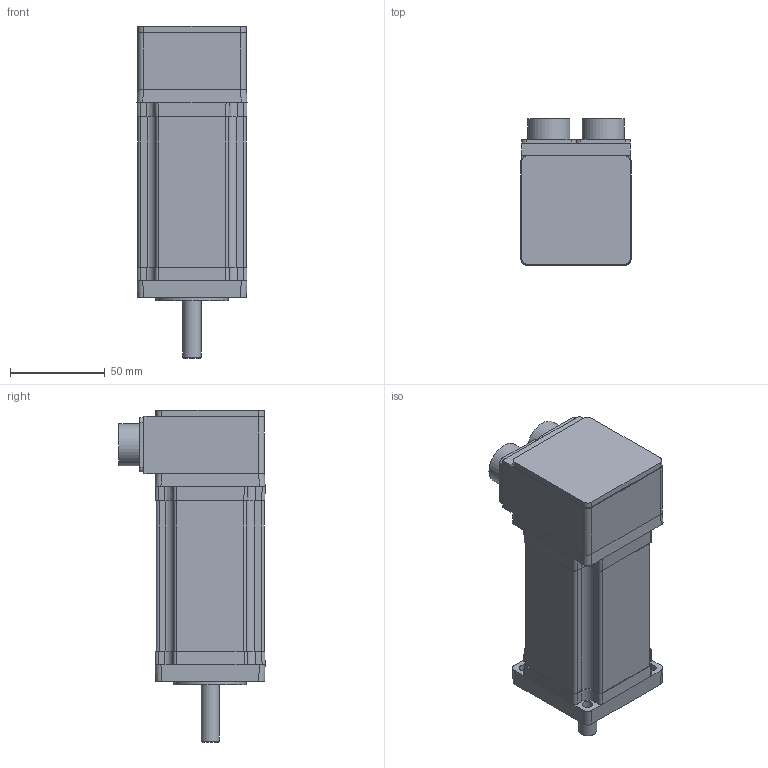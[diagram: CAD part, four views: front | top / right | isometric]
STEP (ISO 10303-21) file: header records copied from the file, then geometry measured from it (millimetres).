
FILE_DESCRIPTION((''),'2;1');
FILE_NAME('C:\CAD_work\Dummy_Modeling_Project_02-12-05\3D MODELS\BE233_MS_TQ.stp','2005-12-20T15:34:21',('jevans'),(''),'Autodesk Inventor 10','Autodesk Inventor 10','');
FILE_SCHEMA(('AUTOMOTIVE_DESIGN { 1 0 10303 214 1 1 1 1 }'));
Length unit declared in the file: inch
Products named in the file (1): BE23_MS_TQ
Bounding box: 57.95 x 77.05 x 174.91 mm (x, y, z)
Volume: 452710.3 mm3; surface area: 51594 mm2
Topology: 3 solids, 3 shells, 306 faces, 756 edges, 480 vertices
Faces by surface type: plane 135, cylinder 117, bspline 31, sphere 12, cone 8, torus 3
Full cylindrical faces by diameter (mm): 1.27 x2, 1.905 x26, 2.54 x4, 9.52 x1, 9.525 x1, 19.177 x1, 21.59 x1, 22.225 x1, 24.13 x1, 25.403 x1, 26 x1, 27.076 x1, 31.75 x3, 38.1 x1, 41.732 x1, 47.015 x1
Entity records: 8798 total; most frequent: CARTESIAN_POINT 1823, DIRECTION 1501, ORIENTED_EDGE 1300, EDGE_CURVE 650, AXIS2_PLACEMENT_3D 575, VERTEX_POINT 459, EDGE_LOOP 429, VECTOR 351
